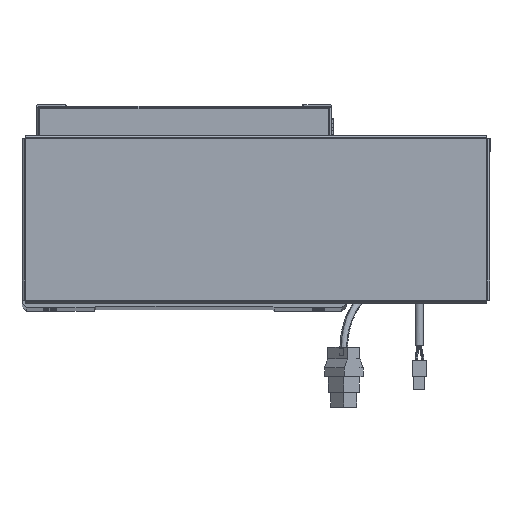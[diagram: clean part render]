
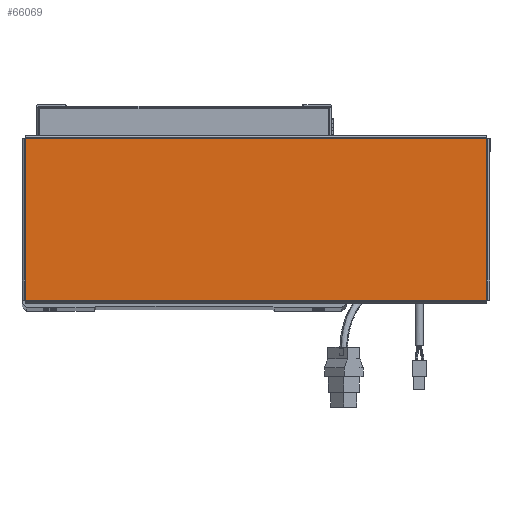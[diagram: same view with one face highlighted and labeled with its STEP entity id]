
A CAD part, top view. The second image highlights one B-rep face of the part: STEP entity #66069.
In plain terms, the highlighted planar face has unit normal (0, 0, 1).
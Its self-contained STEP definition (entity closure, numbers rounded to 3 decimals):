
#301 = VECTOR ( 'NONE', #26575, 1000. ) ;
#1921 = LINE ( 'NONE', #16788, #301 ) ;
#2204 = CARTESIAN_POINT ( 'NONE',  ( -156.513, -54.763, 0. ) ) ;
#3339 = DIRECTION ( 'NONE',  ( 0., -1., 0. ) ) ;
#3607 = VECTOR ( 'NONE', #3339, 1000. ) ;
#5795 = EDGE_CURVE ( 'NONE', #30064, #54573, #6076, .T. ) ;
#6018 = DIRECTION ( 'NONE',  ( -1., 0., 0. ) ) ;
#6076 = LINE ( 'NONE', #11695, #6931 ) ;
#6931 = VECTOR ( 'NONE', #6018, 1000. ) ;
#8670 = EDGE_LOOP ( 'NONE', ( #33602, #37399, #61442, #26186 ) ) ;
#11695 = CARTESIAN_POINT ( 'NONE',  ( 156.543, 54.763, 0. ) ) ;
#13484 = FACE_OUTER_BOUND ( 'NONE', #8670, .T. ) ;
#14373 = PLANE ( 'NONE',  #56295 ) ;
#16788 = CARTESIAN_POINT ( 'NONE',  ( 156.513, -54.793, 0. ) ) ;
#19843 = VERTEX_POINT ( 'NONE', #2204 ) ;
#25387 = EDGE_CURVE ( 'NONE', #19843, #38824, #50924, .T. ) ;
#25609 = CARTESIAN_POINT ( 'NONE',  ( 156.513, -54.763, 0. ) ) ;
#26186 = ORIENTED_EDGE ( 'NONE', *, *, #39451, .T. ) ;
#26412 = VECTOR ( 'NONE', #31751, 1000. ) ;
#26527 = CARTESIAN_POINT ( 'NONE',  ( -156.543, -54.763, 0. ) ) ;
#26575 = DIRECTION ( 'NONE',  ( 0., 1., 0. ) ) ;
#30064 = VERTEX_POINT ( 'NONE', #57866 ) ;
#30080 = DIRECTION ( 'NONE',  ( 1., 0., 0. ) ) ;
#31751 = DIRECTION ( 'NONE',  ( 1., 0., 0. ) ) ;
#33602 = ORIENTED_EDGE ( 'NONE', *, *, #25387, .T. ) ;
#37399 = ORIENTED_EDGE ( 'NONE', *, *, #61055, .T. ) ;
#38824 = VERTEX_POINT ( 'NONE', #25609 ) ;
#39451 = EDGE_CURVE ( 'NONE', #54573, #19843, #45189, .T. ) ;
#45139 = CARTESIAN_POINT ( 'NONE',  ( 0., 0., 0. ) ) ;
#45189 = LINE ( 'NONE', #63657, #3607 ) ;
#50924 = LINE ( 'NONE', #26527, #26412 ) ;
#54573 = VERTEX_POINT ( 'NONE', #59033 ) ;
#56295 = AXIS2_PLACEMENT_3D ( 'NONE', #45139, #61134, #30080 ) ;
#57866 = CARTESIAN_POINT ( 'NONE',  ( 156.513, 54.763, 0. ) ) ;
#59033 = CARTESIAN_POINT ( 'NONE',  ( -156.513, 54.763, 0. ) ) ;
#61055 = EDGE_CURVE ( 'NONE', #38824, #30064, #1921, .T. ) ;
#61134 = DIRECTION ( 'NONE',  ( 0., 0., 1. ) ) ;
#61442 = ORIENTED_EDGE ( 'NONE', *, *, #5795, .T. ) ;
#63657 = CARTESIAN_POINT ( 'NONE',  ( -156.513, 54.793, 0. ) ) ;
#66069 = ADVANCED_FACE ( 'NONE', ( #13484 ), #14373, .T. ) ;
